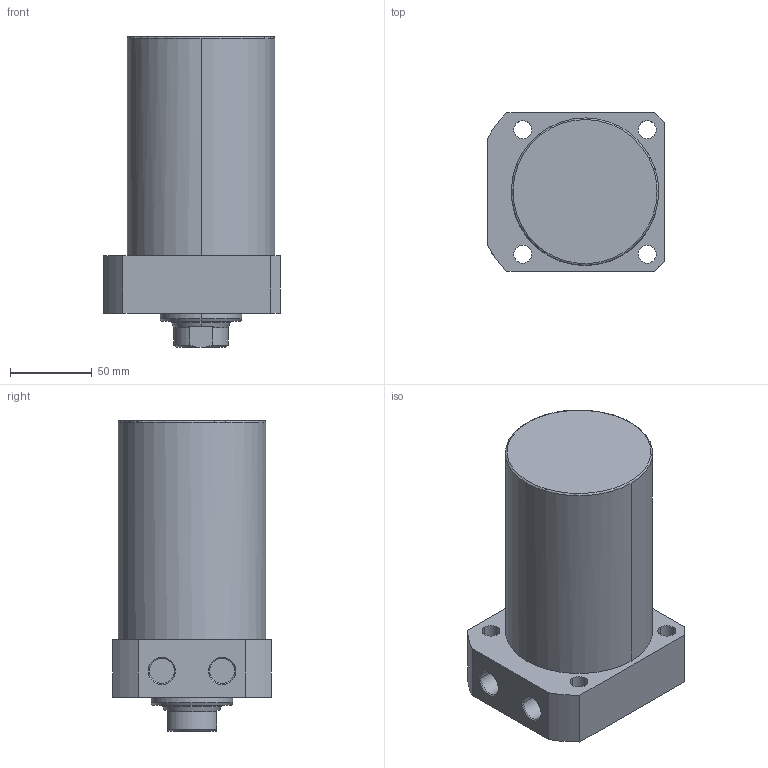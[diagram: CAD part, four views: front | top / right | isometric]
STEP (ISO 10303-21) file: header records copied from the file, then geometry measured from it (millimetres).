
FILE_DESCRIPTION((' '),'2;1');
FILE_NAME( 'TLLR-090CA-090.STEP.stp', '2025-10-24T16:35:17', (' '), ('--- Datakit www.datakit.com---'), ' Datakit CrossCadWare V2024.1 Dec 21 2023', 'Mastercam 2025', ' ');
FILE_SCHEMA(('AUTOMOTIVE_DESIGN { 1 0 10303 214 1 1 1 1 }'));
Length unit declared in the file: millimetre
Products named in the file (1): TLLR-090CA-090
Bounding box: 108 x 97 x 190 mm (x, y, z)
Volume: 1201376.6 mm3; surface area: 82975 mm2
Topology: 1 solids, 1 shells, 63 faces, 177 edges, 122 vertices
Faces by surface type: cylinder 28, plane 19, cone 14, torus 2
Entity records: 2172 total; most frequent: CARTESIAN_POINT 409, DIRECTION 400, ORIENTED_EDGE 350, EDGE_CURVE 175, AXIS2_PLACEMENT_3D 169, VERTEX_POINT 122, CIRCLE 105, EDGE_LOOP 79
